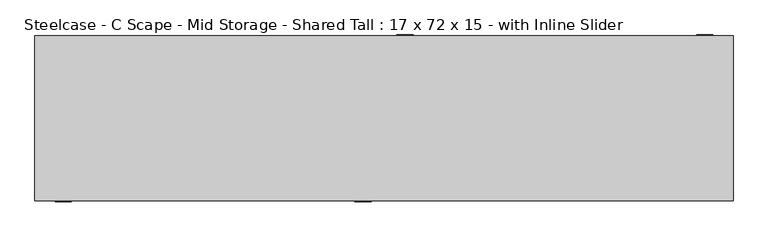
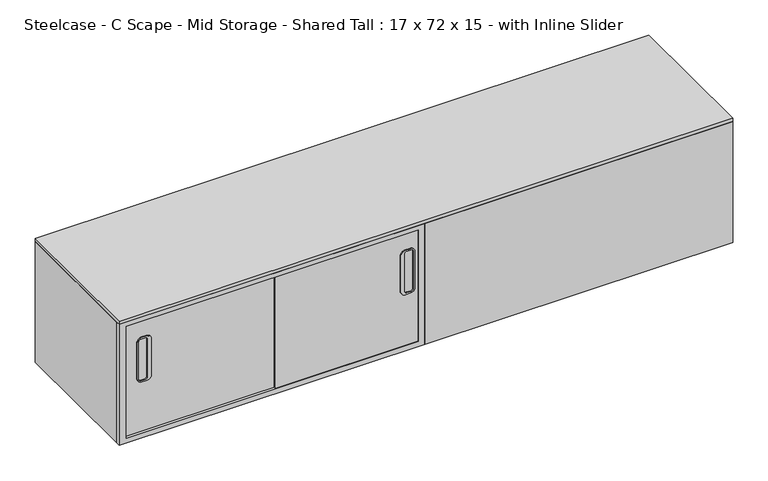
"""IFC4 building model written with IfcOpenShell, lengths in millimetres: furniture geometry, Steelcase - C Scape - Mid Storage - Shared Tall : 17 x 72 x 15 - with Inline Slider."""

from ifc_helpers import new_model, si_unit, point, frame, frame_2d, origin, place, context, project, spatial, polyline, circle_curve, trimmed, segment, composite_curve, outline, extrude, faceted_brep, source, transform, mapped, element, save


def steelcase_c_scape_mid_storage_shared_tall_17_x_72_x_15_with_1bf9e8d1(model_context):
    return source(origin(), model_context, "Body", "SolidModel", [
        faceted_brep([(917.575, 215.9, 1219.279375), (0.0, 215.9, 1219.279375), (0.0, -201.2949309, 1219.279375), (21.9711633, -201.2949309, 1219.279375), (21.9711633, 206.3755809, 1219.279375), (911.225, 206.3755809, 1219.279375), (911.225, -215.9, 1219.279375), (1828.8, -215.9, 1219.279375), (1828.8, 206.3755809, 1219.279375), (1806.702, 206.3755809, 1219.279375), (1806.702, -201.2949309, 1219.279375), (917.575, -201.2949309, 1219.279375), (1828.8, 206.3755809, 838.2), (1828.8, -215.9, 838.2), (911.225, -215.9, 838.2), (911.225, -201.2949309, 838.2), (0.0, -201.2949309, 838.2), (0.0, 215.9, 838.2), (917.575, 215.9, 838.2), (917.575, 206.3755809, 838.2), (911.225, -201.2949309, 853.4399855), (21.9711633, -201.2949309, 853.4399855), (21.9711633, 206.3755809, 853.4399855), (911.225, 206.3755809, 853.4399855), (917.575, 206.3755809, 853.4399855), (1806.702, 206.3755809, 853.4399855), (1806.702, -201.2949309, 853.4399855), (917.575, -201.2949309, 853.4399855)], [[[0, 1, 2, 3, 4, 5, 6, 7, 8, 9, 10, 11]], [[12, 13, 14, 15, 16, 17, 18, 19]], [[1, 0, 18, 17]], [[2, 1, 17, 16]], [[3, 2, 16, 15, 20, 21]], [[4, 3, 21, 22]], [[5, 4, 22, 23]], [[6, 5, 23, 20, 15, 14]], [[7, 6, 14, 13]], [[8, 7, 13, 12]], [[9, 8, 12, 19, 24, 25]], [[10, 9, 25, 26]], [[11, 10, 26, 27]], [[0, 11, 27, 24, 19, 18]], [[21, 20, 23, 22]], [[25, 24, 27, 26]]]),
        extrude(outline(polyline([(1219.279375, 1828.8), (1219.279375, 917.575), (838.2, 917.575), (838.2, 1828.8), (1219.279375, 1828.8)]), holes=[polyline([(1205.8427824, 1806.702), (853.4399855, 1806.702), (853.4399855, 936.498), (1205.8427824, 936.498), (1205.8427824, 1806.702)])]), frame((0.0, 206.3755809, 0.0), z_axis=(0.0, 1.0, 0.0), x_axis=(0.0, 0.0, 1.0)), (0.0, 0.0, 1.0), 9.5244191),
        extrude(outline(polyline([(1219.279375, 911.225), (1219.279375, 0.0), (838.2, 0.0), (838.2, 911.225), (1219.279375, 911.225)]), holes=[polyline([(1205.8427824, 892.302), (853.4399855, 892.302), (853.4399855, 21.9711633), (1205.8427824, 21.9711633), (1205.8427824, 892.302)])]), frame((0.0, -215.9, 0.0), z_axis=(0.0, 1.0, 0.0), x_axis=(0.0, 0.0, 1.0)), (0.0, 0.0, 1.0), 14.6050691),
        extrude(outline(polyline([(1828.8, -215.9), (0.0, -215.9), (0.0, 215.9), (1828.8, 215.9), (1828.8, -215.9)])), frame((0.0, 0.0, 1219.279375), z_axis=(0.0, 0.0, 1.0), x_axis=(1.0, 0.0, 0.0)), (0.0, 0.0, 1.0), 10.080625),
        extrude(outline(composite_curve([segment(trimmed(circle_curve(frame_2d((1142.6476077, 1762.2179733)), 13.716), [point((1142.6476077, 1775.9339733))], [point((1156.3636077, 1762.2179733))], False, "CARTESIAN"), True, "CONTINUOUS"), segment(polyline([(1156.3636077, 1762.2179733), (1156.3636077, 1747.2703473)]), True, "CONTINUOUS"), segment(trimmed(circle_curve(frame_2d((1142.7362332, 1747.2703473)), 13.6273746), [point((1156.3636077, 1747.2703473))], [point((1142.7362332, 1733.6429727))], False, "CARTESIAN"), True, "CONTINUOUS"), segment(polyline([(1142.7362332, 1733.6429727), (1030.3795593, 1733.6429727)]), True, "CONTINUOUS"), segment(trimmed(circle_curve(frame_2d((1030.3795593, 1747.3589727)), 13.716), [point((1030.3795593, 1733.6429727))], [point((1016.6635593, 1747.3589727))], False, "CARTESIAN"), True, "CONTINUOUS"), segment(polyline([(1016.6635593, 1747.3589727), (1016.6635593, 1762.2179733)]), True, "CONTINUOUS"), segment(trimmed(circle_curve(frame_2d((1030.3795593, 1762.2179733)), 13.716), [point((1016.6635593, 1762.2179733))], [point((1030.3795593, 1775.9339733))], False, "CARTESIAN"), True, "CONTINUOUS"), segment(polyline([(1030.3795593, 1775.9339733), (1142.6476077, 1775.9339733)]), True, "CONTINUOUS")], self_intersect=False), holes=[composite_curve([segment(trimmed(circle_curve(frame_2d((1027.8395729, 1764.7579733)), 6.35), [point((1027.8395729, 1771.1079733))], [point((1021.4895729, 1764.7579733))], True, "CARTESIAN"), True, "CONTINUOUS"), segment(polyline([(1021.4895729, 1764.7579733), (1021.4895729, 1752.0579794)]), True, "CONTINUOUS"), segment(trimmed(circle_curve(frame_2d((1027.8395729, 1752.0579794)), 6.35), [point((1021.4895729, 1752.0579794))], [point((1027.8395729, 1745.7079794))], True, "CARTESIAN"), True, "CONTINUOUS"), segment(polyline([(1027.8395729, 1745.7079794), (1145.1875942, 1745.7079794)]), True, "CONTINUOUS"), segment(trimmed(circle_curve(frame_2d((1145.1875942, 1752.0579794)), 6.35), [point((1145.1875942, 1745.7079794))], [point((1151.5375942, 1752.0579794))], True, "CARTESIAN"), True, "CONTINUOUS"), segment(polyline([(1151.5375942, 1752.0579794), (1151.5375942, 1764.7579733)]), True, "CONTINUOUS"), segment(trimmed(circle_curve(frame_2d((1145.1875942, 1764.7579733)), 6.35), [point((1151.5375942, 1764.7579733))], [point((1145.1875942, 1771.1079733))], True, "CARTESIAN"), True, "CONTINUOUS"), segment(polyline([(1145.1875942, 1771.1079733), (1027.8395729, 1771.1079733)]), True, "CONTINUOUS")], self_intersect=False)]), frame((0.0, 215.9, 0.0), z_axis=(0.0, 1.0, 0.0), x_axis=(0.0, 0.0, 1.0)), (0.0, 0.0, 1.0), 2.54),
        extrude(outline(composite_curve([segment(polyline([(1142.6476077, 948.3430267), (1030.3795593, 948.3430267)]), True, "CONTINUOUS"), segment(trimmed(circle_curve(frame_2d((1030.3795593, 962.0590267)), 13.716), [point((1030.3795593, 948.3430267))], [point((1016.6635593, 962.0590267))], False, "CARTESIAN"), True, "CONTINUOUS"), segment(polyline([(1016.6635593, 962.0590267), (1016.6635593, 976.9180273)]), True, "CONTINUOUS"), segment(trimmed(circle_curve(frame_2d((1030.3795593, 976.9180273)), 13.716), [point((1016.6635593, 976.9180273))], [point((1030.3795593, 990.6340273))], False, "CARTESIAN"), True, "CONTINUOUS"), segment(polyline([(1030.3795593, 990.6340273), (1142.7362332, 990.6340273)]), True, "CONTINUOUS"), segment(trimmed(circle_curve(frame_2d((1142.7362332, 977.0066527)), 13.6273746), [point((1142.7362332, 990.6340273))], [point((1156.3636077, 977.0066527))], False, "CARTESIAN"), True, "CONTINUOUS"), segment(polyline([(1156.3636077, 977.0066527), (1156.3636077, 962.0590267)]), True, "CONTINUOUS"), segment(trimmed(circle_curve(frame_2d((1142.6476077, 962.0590267)), 13.716), [point((1156.3636077, 962.0590267))], [point((1142.6476077, 948.3430267))], False, "CARTESIAN"), True, "CONTINUOUS")], self_intersect=False), holes=[composite_curve([segment(polyline([(1027.8395729, 953.1690267), (1145.1875942, 953.1690267)]), True, "CONTINUOUS"), segment(trimmed(circle_curve(frame_2d((1145.1875942, 959.5190267)), 6.35), [point((1145.1875942, 953.1690267))], [point((1151.5375942, 959.5190267))], True, "CARTESIAN"), True, "CONTINUOUS"), segment(polyline([(1151.5375942, 959.5190267), (1151.5375942, 972.2190206)]), True, "CONTINUOUS"), segment(trimmed(circle_curve(frame_2d((1145.1875942, 972.2190206)), 6.35), [point((1151.5375942, 972.2190206))], [point((1145.1875942, 978.5690206))], True, "CARTESIAN"), True, "CONTINUOUS"), segment(polyline([(1145.1875942, 978.5690206), (1027.8395729, 978.5690206)]), True, "CONTINUOUS"), segment(trimmed(circle_curve(frame_2d((1027.8395729, 972.2190206)), 6.35), [point((1027.8395729, 978.5690206))], [point((1021.4895729, 972.2190206))], True, "CARTESIAN"), True, "CONTINUOUS"), segment(polyline([(1021.4895729, 972.2190206), (1021.4895729, 959.5190267)]), True, "CONTINUOUS"), segment(trimmed(circle_curve(frame_2d((1027.8395729, 959.5190267)), 6.35), [point((1021.4895729, 959.5190267))], [point((1027.8395729, 953.1690267))], True, "CARTESIAN"), True, "CONTINUOUS")], self_intersect=False)]), frame((0.0, 215.9, 0.0), z_axis=(0.0, 1.0, 0.0), x_axis=(0.0, 0.0, 1.0)), (0.0, 0.0, 1.0), 2.54),
        extrude(outline(composite_curve([segment(trimmed(circle_curve(frame_2d((1142.6476077, 866.7409733)), 13.716), [point((1142.6476077, 880.4569733))], [point((1156.3636077, 866.7409733))], False, "CARTESIAN"), True, "CONTINUOUS"), segment(polyline([(1156.3636077, 866.7409733), (1156.3636077, 851.7933473)]), True, "CONTINUOUS"), segment(trimmed(circle_curve(frame_2d((1142.7362332, 851.7933473)), 13.6273746), [point((1156.3636077, 851.7933473))], [point((1142.7362332, 838.1659727))], False, "CARTESIAN"), True, "CONTINUOUS"), segment(polyline([(1142.7362332, 838.1659727), (1030.3795593, 838.1659727)]), True, "CONTINUOUS"), segment(trimmed(circle_curve(frame_2d((1030.3795593, 851.8819727)), 13.716), [point((1030.3795593, 838.1659727))], [point((1016.6635593, 851.8819727))], False, "CARTESIAN"), True, "CONTINUOUS"), segment(polyline([(1016.6635593, 851.8819727), (1016.6635593, 866.7409733)]), True, "CONTINUOUS"), segment(trimmed(circle_curve(frame_2d((1030.3795593, 866.7409733)), 13.716), [point((1016.6635593, 866.7409733))], [point((1030.3795593, 880.4569733))], False, "CARTESIAN"), True, "CONTINUOUS"), segment(polyline([(1030.3795593, 880.4569733), (1142.6476077, 880.4569733)]), True, "CONTINUOUS")], self_intersect=False), holes=[composite_curve([segment(trimmed(circle_curve(frame_2d((1027.8395729, 869.2809733)), 6.35), [point((1027.8395729, 875.6309733))], [point((1021.4895729, 869.2809733))], True, "CARTESIAN"), True, "CONTINUOUS"), segment(polyline([(1021.4895729, 869.2809733), (1021.4895729, 856.5809794)]), True, "CONTINUOUS"), segment(trimmed(circle_curve(frame_2d((1027.8395729, 856.5809794)), 6.35), [point((1021.4895729, 856.5809794))], [point((1027.8395729, 850.2309794))], True, "CARTESIAN"), True, "CONTINUOUS"), segment(polyline([(1027.8395729, 850.2309794), (1145.1875942, 850.2309794)]), True, "CONTINUOUS"), segment(trimmed(circle_curve(frame_2d((1145.1875942, 856.5809794)), 6.35), [point((1145.1875942, 850.2309794))], [point((1151.5375942, 856.5809794))], True, "CARTESIAN"), True, "CONTINUOUS"), segment(polyline([(1151.5375942, 856.5809794), (1151.5375942, 869.2809733)]), True, "CONTINUOUS"), segment(trimmed(circle_curve(frame_2d((1145.1875942, 869.2809733)), 6.35), [point((1151.5375942, 869.2809733))], [point((1145.1875942, 875.6309733))], True, "CARTESIAN"), True, "CONTINUOUS"), segment(polyline([(1145.1875942, 875.6309733), (1027.8395729, 875.6309733)]), True, "CONTINUOUS")], self_intersect=False)]), frame((0.0, -218.44, 0.0), z_axis=(0.0, 1.0, 0.0), x_axis=(0.0, 0.0, 1.0)), (0.0, 0.0, 1.0), 2.54),
        extrude(outline(composite_curve([segment(polyline([(1142.6476077, 52.73919), (1030.3795593, 52.73919)]), True, "CONTINUOUS"), segment(trimmed(circle_curve(frame_2d((1030.3795593, 66.45519)), 13.716), [point((1030.3795593, 52.73919))], [point((1016.6635593, 66.45519))], False, "CARTESIAN"), True, "CONTINUOUS"), segment(polyline([(1016.6635593, 66.45519), (1016.6635593, 81.3141906)]), True, "CONTINUOUS"), segment(trimmed(circle_curve(frame_2d((1030.3795593, 81.3141906)), 13.716), [point((1016.6635593, 81.3141906))], [point((1030.3795593, 95.0301906))], False, "CARTESIAN"), True, "CONTINUOUS"), segment(polyline([(1030.3795593, 95.0301906), (1142.7362332, 95.0301906)]), True, "CONTINUOUS"), segment(trimmed(circle_curve(frame_2d((1142.7362332, 81.402816)), 13.6273746), [point((1142.7362332, 95.0301906))], [point((1156.3636077, 81.402816))], False, "CARTESIAN"), True, "CONTINUOUS"), segment(polyline([(1156.3636077, 81.402816), (1156.3636077, 66.45519)]), True, "CONTINUOUS"), segment(trimmed(circle_curve(frame_2d((1142.6476077, 66.45519)), 13.716), [point((1156.3636077, 66.45519))], [point((1142.6476077, 52.73919))], False, "CARTESIAN"), True, "CONTINUOUS")], self_intersect=False), holes=[composite_curve([segment(polyline([(1027.8395729, 57.56519), (1145.1875942, 57.56519)]), True, "CONTINUOUS"), segment(trimmed(circle_curve(frame_2d((1145.1875942, 63.91519)), 6.35), [point((1145.1875942, 57.56519))], [point((1151.5375942, 63.91519))], True, "CARTESIAN"), True, "CONTINUOUS"), segment(polyline([(1151.5375942, 63.91519), (1151.5375942, 76.6151839)]), True, "CONTINUOUS"), segment(trimmed(circle_curve(frame_2d((1145.1875942, 76.6151839)), 6.35), [point((1151.5375942, 76.6151839))], [point((1145.1875942, 82.9651839))], True, "CARTESIAN"), True, "CONTINUOUS"), segment(polyline([(1145.1875942, 82.9651839), (1027.8395729, 82.9651839)]), True, "CONTINUOUS"), segment(trimmed(circle_curve(frame_2d((1027.8395729, 76.6151839)), 6.35), [point((1027.8395729, 82.9651839))], [point((1021.4895729, 76.6151839))], True, "CARTESIAN"), True, "CONTINUOUS"), segment(polyline([(1021.4895729, 76.6151839), (1021.4895729, 63.91519)]), True, "CONTINUOUS"), segment(trimmed(circle_curve(frame_2d((1027.8395729, 63.91519)), 6.35), [point((1021.4895729, 63.91519))], [point((1027.8395729, 57.56519))], True, "CARTESIAN"), True, "CONTINUOUS")], self_intersect=False)]), frame((0.0, -218.44, 0.0), z_axis=(0.0, 1.0, 0.0), x_axis=(0.0, 0.0, 1.0)), (0.0, 0.0, 1.0), 2.54),
        extrude(outline(polyline([(1362.1385, 206.3755809), (917.575, 206.3755809), (917.575, 211.1377905), (1362.1385, 211.1377905), (1362.1385, 206.3755809)])), frame((0.0, 0.0, 853.4399855), z_axis=(0.0, 0.0, 1.0), x_axis=(1.0, 0.0, 0.0)), (0.0, 0.0, 1.0), 365.8393895),
        extrude(outline(polyline([(1806.702, 211.1377905), (1362.1385, 211.1377905), (1362.1385, 214.5444948), (1806.702, 214.5444948), (1806.702, 211.1377905)])), frame((0.0, 0.0, 853.4399855), z_axis=(0.0, 0.0, 1.0), x_axis=(1.0, 0.0, 0.0)), (0.0, 0.0, 1.0), 365.8393895),
        extrude(outline(polyline([(911.225, -214.5444948), (466.5980817, -214.5444948), (466.5980817, -208.5974655), (911.225, -208.5974655), (911.225, -214.5444948)])), frame((0.0, 0.0, 853.4399855), z_axis=(0.0, 0.0, 1.0), x_axis=(1.0, 0.0, 0.0)), (0.0, 0.0, 1.0), 365.8393895),
        extrude(outline(polyline([(466.5980817, -208.5974655), (21.9711633, -208.5974655), (21.9711633, -201.2949309), (466.5980817, -201.2949309), (466.5980817, -208.5974655)])), frame((0.0, 0.0, 853.4399855), z_axis=(0.0, 0.0, 1.0), x_axis=(1.0, 0.0, 0.0)), (0.0, 0.0, 1.0), 365.8393895),
    ])


if __name__ == "__main__":
    model = new_model("IFC4")
    model_context = context("Model", 3, world=origin())
    ifc_project = project(units=[si_unit("LENGTHUNIT", "METRE", prefix="MILLI")], contexts=[model_context])
    site = spatial("IfcSite", under=ifc_project)
    building = spatial("IfcBuilding", under=site)
    placement = place(None, origin())
    steelcase_c_scape_mid_storage_shared_tall_17_x_72_x_15_with_shape = steelcase_c_scape_mid_storage_shared_tall_17_x_72_x_15_with_1bf9e8d1(model_context)
    element("IfcFurniture", 1, ObjectType="Steelcase - C Scape - Mid Storage - Shared Tall : 17 x 72 x 15 - with Inline Slider", at=placement, inside=building, context=model_context, shape_type="MappedRepresentation", body=[
        mapped(steelcase_c_scape_mid_storage_shared_tall_17_x_72_x_15_with_shape, transform((0.0, 0.0, 0.0), x_axis=(1.0, 0.0, 0.0), y_axis=(0.0, 1.0, 0.0), z_axis=(0.0, 0.0, 1.0))),
    ])
    save(model, "model.ifc")
